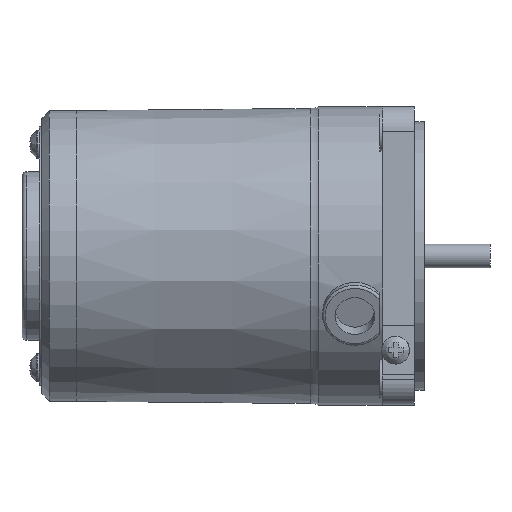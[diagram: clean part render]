
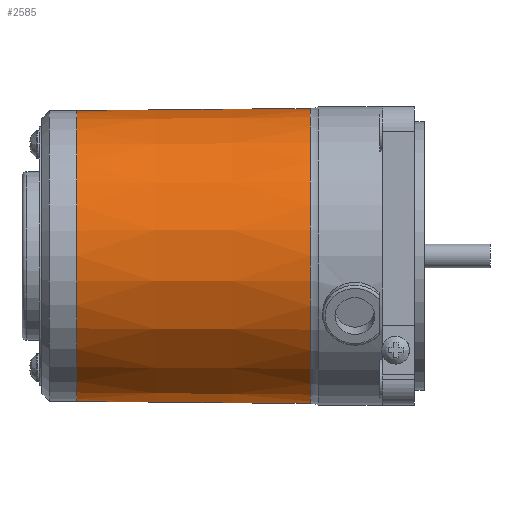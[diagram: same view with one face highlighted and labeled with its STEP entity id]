
A CAD part, top view. The second image highlights one B-rep face of the part: STEP entity #2585.
In plain terms, the highlighted conical face has half-angle 0.549 degrees and reference radius 29.475 mm.
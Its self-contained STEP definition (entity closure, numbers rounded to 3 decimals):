
#14=CONICAL_SURFACE('',#2811,29.475,0.549);
#151=FACE_BOUND('',#568,.T.);
#242=CIRCLE('',#2810,29.25);
#243=CIRCLE('',#2812,29.7);
#378=FACE_OUTER_BOUND('',#567,.T.);
#567=EDGE_LOOP('',(#2055));
#568=EDGE_LOOP('',(#2056));
#1185=VERTEX_POINT('',#4328);
#1186=VERTEX_POINT('',#4331);
#1491=EDGE_CURVE('',#1185,#1185,#242,.T.);
#1492=EDGE_CURVE('',#1186,#1186,#243,.T.);
#2055=ORIENTED_EDGE('',*,*,#1492,.F.);
#2056=ORIENTED_EDGE('',*,*,#1491,.T.);
#2585=ADVANCED_FACE('',(#378,#151),#14,.T.);
#2810=AXIS2_PLACEMENT_3D('',#4329,#3376,#3377);
#2811=AXIS2_PLACEMENT_3D('',#4330,#3378,#3379);
#2812=AXIS2_PLACEMENT_3D('',#4332,#3380,#3381);
#3376=DIRECTION('center_axis',(1.,0.,0.));
#3377=DIRECTION('ref_axis',(0.,1.,0.));
#3378=DIRECTION('center_axis',(1.,0.,0.));
#3379=DIRECTION('ref_axis',(0.,1.,0.));
#3380=DIRECTION('center_axis',(1.,0.,0.));
#3381=DIRECTION('ref_axis',(0.,1.,0.));
#4328=CARTESIAN_POINT('',(7.,29.25,0.));
#4329=CARTESIAN_POINT('Origin',(7.,0.,0.));
#4330=CARTESIAN_POINT('Origin',(30.5,0.,0.));
#4331=CARTESIAN_POINT('',(54.,29.7,0.));
#4332=CARTESIAN_POINT('Origin',(54.,0.,0.));
